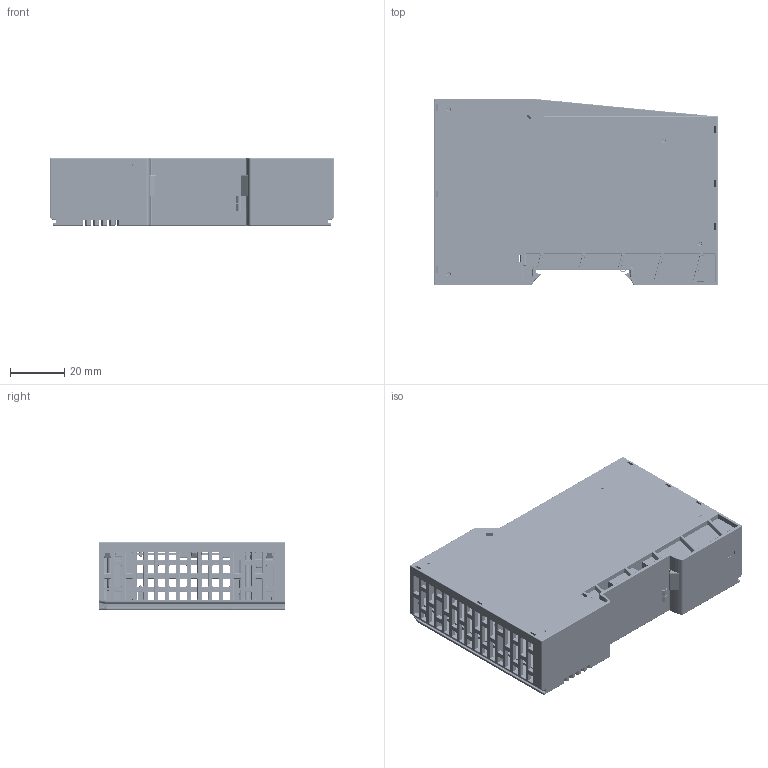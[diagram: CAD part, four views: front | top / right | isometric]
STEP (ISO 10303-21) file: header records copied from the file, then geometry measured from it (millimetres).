
FILE_DESCRIPTION((''),'2;1');
FILE_NAME('BSP-2301-S17070_ASM','2025-12-24T',('Junjie.Feng'),(''),'CREO PARAMETRIC BY PTC INC, 2016260','CREO PARAMETRIC BY PTC INC, 2016260','');
FILE_SCHEMA(('CONFIG_CONTROL_DESIGN'));
Products named in the file (8): 0173W40300_AF0; 0173B04300; C000004600; PCB_BSP-2301-02_AF0; PCB_BSP-2301-01_AF0; T000152000; BSP-2301-S17070_SW0001; BSP-2301-S17070_ASM
Assembly tree (7 placements, depth 2):
  BSP-2301-S17070_ASM
    0173W40300_AF0
    0173B04300
    C000004600
    PCB_BSP-2301-02_AF0
    PCB_BSP-2301-01_AF0
    T000152000
    BSP-2301-S17070_SW0001
Bounding box: 105 x 69 x 25 mm (x, y, z)
Volume: 43811.5 mm3; surface area: 70958 mm2
Topology: 7 solids, 7 shells, 8943 faces, 23625 edges, 14985 vertices
Faces by surface type: plane 4275, cylinder 2208, extrusion 1352, torus 734, sphere 166, bspline 123, cone 81, revolution 4
Entity records: 426498 total; most frequent: CARTESIAN_POINT 81377, ORIENTED_EDGE 47250, DIRECTION 41764, PRESENTATION_STYLE_ASSIGNMENT 31343, STYLED_ITEM 31066, EDGE_CURVE 23625, CURVE_STYLE 23603, VECTOR 16650
